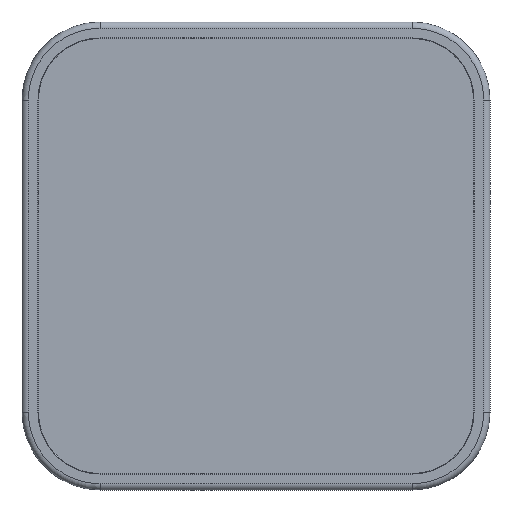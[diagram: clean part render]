
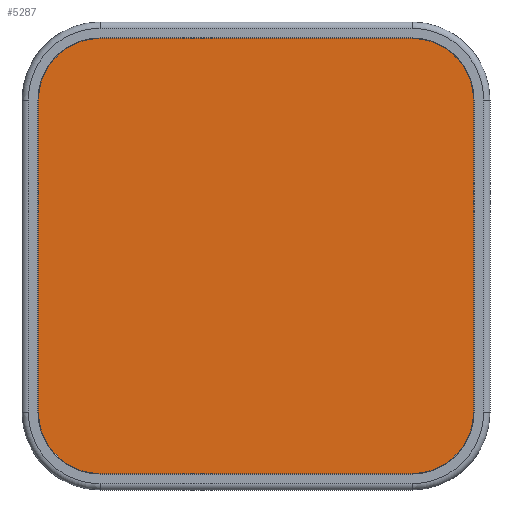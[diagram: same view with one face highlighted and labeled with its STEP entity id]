
A CAD part, front view. The second image highlights one B-rep face of the part: STEP entity #5287.
In plain terms, the highlighted planar face has unit normal (0, -1, 0) as drawn and (0, 0, 1) by its records, which use the part's own axes.
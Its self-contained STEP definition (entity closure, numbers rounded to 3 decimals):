
#5056=CARTESIAN_POINT('',(-100.,-100.,0.));
#5057=DIRECTION('',(0.,0.,1.));
#5058=DIRECTION('',(-1.,0.,0.));
#5059=AXIS2_PLACEMENT_3D('',#5056,#5057,#5058);
#5064=DIRECTION('',(0.,-1.,0.));
#5065=VECTOR('',#5064,200.);
#5066=CARTESIAN_POINT('',(-144.5,100.,0.));
#5067=LINE('',#5066,#5065);
#5071=CARTESIAN_POINT('',(-100.,100.,0.));
#5072=DIRECTION('',(0.,0.,1.));
#5073=DIRECTION('',(0.,1.,0.));
#5074=AXIS2_PLACEMENT_3D('',#5071,#5072,#5073);
#5079=DIRECTION('',(-1.,0.,0.));
#5080=VECTOR('',#5079,200.);
#5081=CARTESIAN_POINT('',(100.,144.5,0.));
#5082=LINE('',#5081,#5080);
#5086=CARTESIAN_POINT('',(100.,100.,0.));
#5087=DIRECTION('',(0.,0.,1.));
#5088=DIRECTION('',(1.,0.,0.));
#5089=AXIS2_PLACEMENT_3D('',#5086,#5087,#5088);
#5094=DIRECTION('',(0.,1.,0.));
#5095=VECTOR('',#5094,200.);
#5096=CARTESIAN_POINT('',(144.5,-100.,0.));
#5097=LINE('',#5096,#5095);
#5101=CARTESIAN_POINT('',(100.,-100.,0.));
#5102=DIRECTION('',(0.,0.,1.));
#5103=DIRECTION('',(0.,-1.,0.));
#5104=AXIS2_PLACEMENT_3D('',#5101,#5102,#5103);
#5109=DIRECTION('',(1.,0.,0.));
#5110=VECTOR('',#5109,200.);
#5111=CARTESIAN_POINT('',(-100.,-144.5,0.));
#5112=LINE('',#5111,#5110);
#5232=CARTESIAN_POINT('',(-144.5,-100.,0.));
#5233=CARTESIAN_POINT('',(-100.,-144.5,0.));
#5234=VERTEX_POINT('',#5232);
#5235=VERTEX_POINT('',#5233);
#5236=CARTESIAN_POINT('',(100.,-144.5,0.));
#5237=VERTEX_POINT('',#5236);
#5238=CARTESIAN_POINT('',(144.5,-100.,0.));
#5239=VERTEX_POINT('',#5238);
#5240=CARTESIAN_POINT('',(144.5,100.,0.));
#5241=VERTEX_POINT('',#5240);
#5242=CARTESIAN_POINT('',(100.,144.5,0.));
#5243=VERTEX_POINT('',#5242);
#5244=CARTESIAN_POINT('',(-100.,144.5,0.));
#5245=VERTEX_POINT('',#5244);
#5246=CARTESIAN_POINT('',(-144.5,100.,0.));
#5247=VERTEX_POINT('',#5246);
#5264=CARTESIAN_POINT('',(0.,0.,0.));
#5265=DIRECTION('',(0.,0.,1.));
#5266=DIRECTION('',(0.,1.,0.));
#5267=AXIS2_PLACEMENT_3D('',#5264,#5265,#5266);
#5268=PLANE('',#5267);
#5270=ORIENTED_EDGE('',*,*,#5269,.F.);
#5272=ORIENTED_EDGE('',*,*,#5271,.F.);
#5274=ORIENTED_EDGE('',*,*,#5273,.F.);
#5276=ORIENTED_EDGE('',*,*,#5275,.F.);
#5278=ORIENTED_EDGE('',*,*,#5277,.F.);
#5280=ORIENTED_EDGE('',*,*,#5279,.F.);
#5282=ORIENTED_EDGE('',*,*,#5281,.F.);
#5284=ORIENTED_EDGE('',*,*,#5283,.F.);
#5285=EDGE_LOOP('',(#5270,#5272,#5274,#5276,#5278,#5280,#5282,#5284));
#5286=FACE_OUTER_BOUND('',#5285,.F.);
#5287=ADVANCED_FACE('',(#5286),#5268,.T.);
#5060=CIRCLE('',#5059,44.5);
#5075=CIRCLE('',#5074,44.5);
#5090=CIRCLE('',#5089,44.5);
#5105=CIRCLE('',#5104,44.5);
#5269=EDGE_CURVE('',#5234,#5235,#5060,.T.);
#5271=EDGE_CURVE('',#5247,#5234,#5067,.T.);
#5273=EDGE_CURVE('',#5245,#5247,#5075,.T.);
#5275=EDGE_CURVE('',#5243,#5245,#5082,.T.);
#5277=EDGE_CURVE('',#5241,#5243,#5090,.T.);
#5279=EDGE_CURVE('',#5239,#5241,#5097,.T.);
#5281=EDGE_CURVE('',#5237,#5239,#5105,.T.);
#5283=EDGE_CURVE('',#5235,#5237,#5112,.T.);
